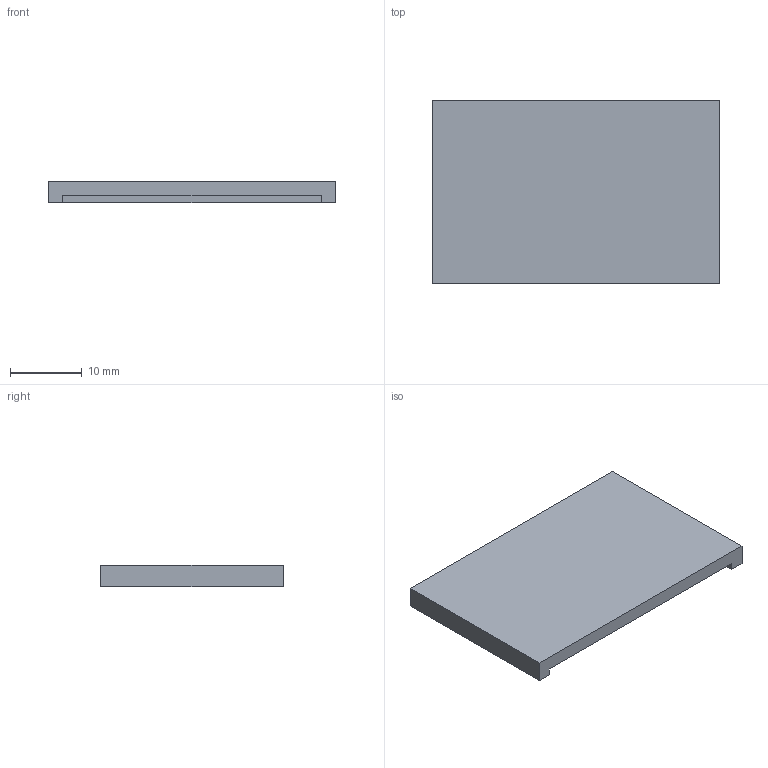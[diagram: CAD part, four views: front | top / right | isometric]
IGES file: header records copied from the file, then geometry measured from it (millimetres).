
Start section:  PTC IGES file: j3-lenz.igs
Global section: file name: j3-lenz.igs; native system: Pro/ENGINEER by Parametric Technology Corporation; preprocessor: 2006420; author: JE18792; organization: Unknown; date: 20101129.152226; units: millimetre
Bounding box: 40 x 25.5 x 3 mm (x, y, z)
Volume: 2214 mm3; surface area: 2480 mm2
Topology: 1 solids, 1 shells, 10 faces, 24 edges, 16 vertices
Faces by surface type: bspline 10
